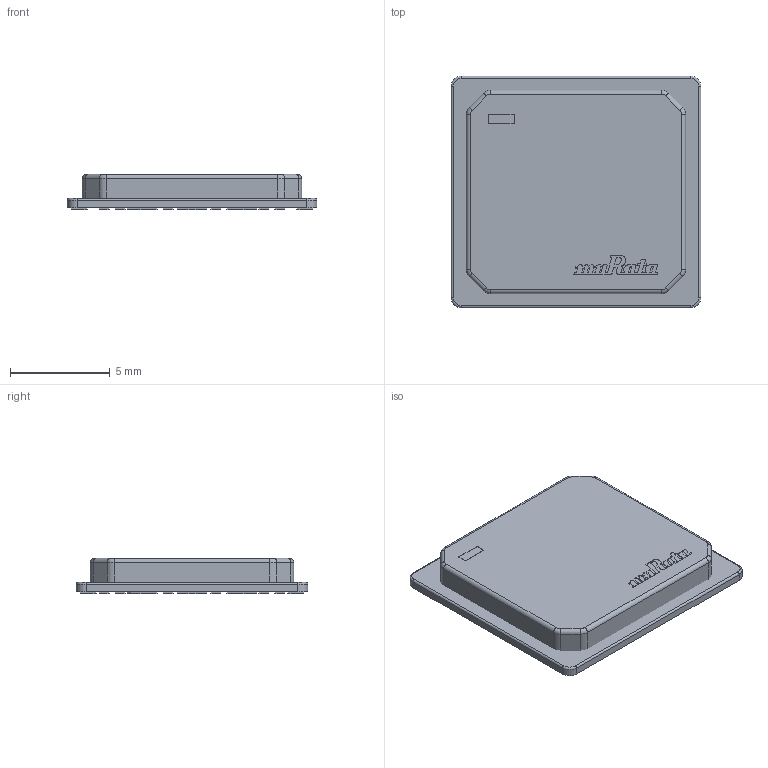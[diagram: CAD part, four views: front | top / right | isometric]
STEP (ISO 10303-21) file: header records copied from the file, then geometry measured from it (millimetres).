
FILE_DESCRIPTION(/* description */ (''),/* implementation_level */ '2;1');
FILE_NAME(/* name */ 'C:\Users\k\Desktop\Murata CMWX1ZZABZ-078\1.stp',/* time_stamp */ '2019-08-08T21:07:35+02:00',/* author */ ('k'),/* organization */ (''),/* preprocessor_version */ 'ST-DEVELOPER v15.6',/* originating_system */ 'Autodesk Inventor 2015',/* authorisation */ '');
FILE_SCHEMA (('AUTOMOTIVE_DESIGN { 1 0 10303 214 3 1 1 }'));
Length unit declared in the file: millimetre
Products named in the file (6): 1; 2; 3; 4; Murata Logo
Bounding box: 12.5 x 11.6 x 1.76 mm (x, y, z)
Volume: 212.9 mm3; surface area: 898.6 mm2
Topology: 63 solids, 63 shells, 569 faces, 1321 edges, 878 vertices
Faces by surface type: plane 448, cylinder 109, torus 12
Full cylindrical faces by diameter (mm): 0.38 x1
Entity records: 16162 total; most frequent: CARTESIAN_POINT 2778, DIRECTION 2718, ORIENTED_EDGE 2640, EDGE_CURVE 1320, LINE 1082, VECTOR 1082, VERTEX_POINT 878, AXIS2_PLACEMENT_3D 818
